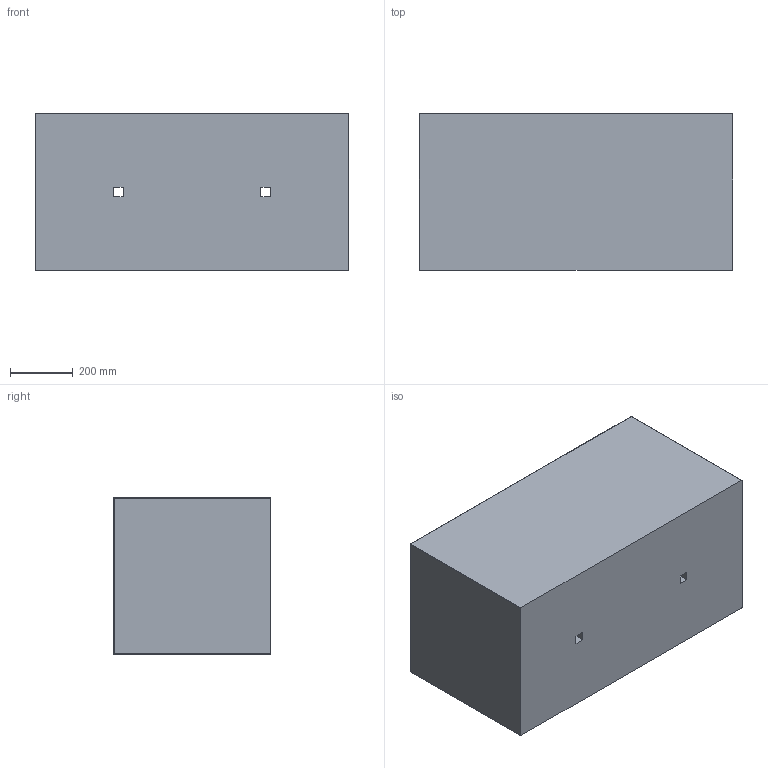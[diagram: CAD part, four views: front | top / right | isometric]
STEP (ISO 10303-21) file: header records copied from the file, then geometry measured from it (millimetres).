
FILE_DESCRIPTION(/* description */ (''),/* implementation_level */ '2;1');
FILE_NAME(/* name */ 'C:\Mac\Home\Desktop\btnv\inventor\basso1005050\donica betonowa Basso 100x50x50 cm.stp',/* time_stamp */ '2025-11-10T21:43:26+01:00',/* author */ ('dwasik'),/* organization */ (''),/* preprocessor_version */ 'ST-DEVELOPER v15.6',/* originating_system */ 'Autodesk Inventor 2015',/* authorisation */ '');
FILE_SCHEMA (('AUTOMOTIVE_DESIGN { 1 0 10303 214 3 1 1 }'));
Length unit declared in the file: millimetre
Products named in the file (1): Part1
Bounding box: 1000 x 500 x 500 mm (x, y, z)
Volume: 55552927.7 mm3; surface area: 3798652.6 mm2
Topology: 1 solids, 1 shells, 31 faces, 72 edges, 44 vertices
Faces by surface type: plane 19, cylinder 8, sphere 4
Entity records: 898 total; most frequent: DIRECTION 152, CARTESIAN_POINT 148, ORIENTED_EDGE 144, EDGE_CURVE 72, LINE 56, VECTOR 56, AXIS2_PLACEMENT_3D 48, VERTEX_POINT 44
